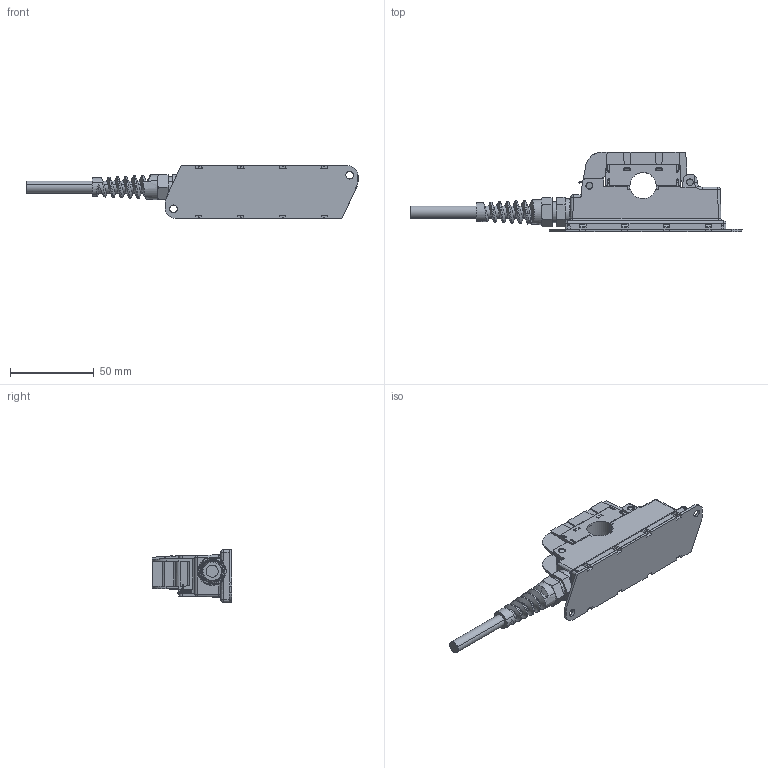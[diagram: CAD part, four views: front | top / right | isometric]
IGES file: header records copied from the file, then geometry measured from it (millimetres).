
Start section: Elysium IGES Interface
Global section: file name: C:\Users\pmo\Desktop\PCM 10-P black box.igs; native system: Creo Elements/Direct Modeling 17.0C  05-Feb-2011; preprocessor: Creo Element/Direct IGES_3D V2.2; author: Unknown; organization: Unknown; date: 20130513.113226; units: millimetre
Bounding box: 197.95 x 47.51 x 32 mm (x, y, z)
Surface area: 51157 mm2
Topology: 3 solids, 4 shells, 1306 faces, 3674 edges, 2303 vertices
Faces by surface type: bspline 1306
